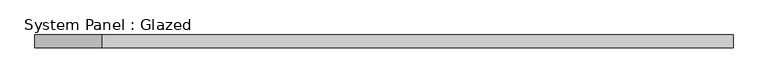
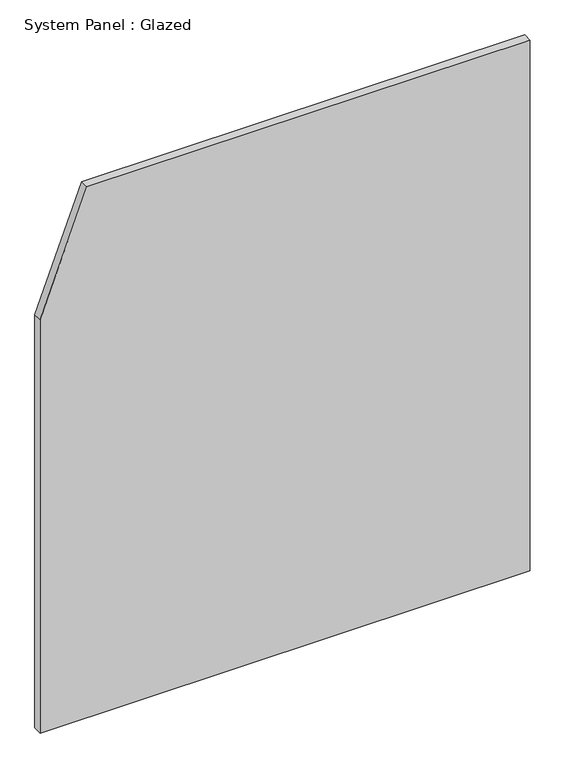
"""IFC4 building model written with IfcOpenShell, lengths in millimetres: plate geometry, System Panel : Glazed."""

from ifc_helpers import new_model, si_unit, point, frame, frame_2d, origin, place, context, project, spatial, polyline, circle_curve, trimmed, segment, composite_curve, outline, extrude, source, transform, mapped, element, save


def system_panel_glazed_2f07938e(model_context):
    return source(origin(), model_context, "Body", "SweptSolid", [
        extrude(outline(composite_curve([segment(polyline([(0.0, -679.1666667), (0.0, 679.1666667), (1553.9731009, 679.1666667), (1553.9731009, -549.4501067)]), True, "CONTINUOUS"), segment(trimmed(circle_curve(frame_2d((444.8347701, 1868.3822726)), 2660.0942185), [point((1553.9731009, -549.4501067))], [point((1210.4036132, -679.1666667))], False, "CARTESIAN"), True, "CONTINUOUS"), segment(polyline([(1210.4036132, -679.1666667), (0.0, -679.1666667)]), True, "CONTINUOUS")], self_intersect=False)), frame((0.0, 24.5, 0.0), z_axis=(0.0, 1.0, 0.0), x_axis=(0.0, 0.0, 1.0)), (0.0, 0.0, 1.0), 25.0),
    ])


if __name__ == "__main__":
    model = new_model("IFC4")
    model_context = context("Model", 3, world=origin())
    ifc_project = project(units=[si_unit("LENGTHUNIT", "METRE", prefix="MILLI")], contexts=[model_context])
    site = spatial("IfcSite", under=ifc_project)
    building = spatial("IfcBuilding", under=site)
    placement = place(None, origin())
    system_panel_glazed_shape = system_panel_glazed_2f07938e(model_context)
    element("IfcPlate", 1, ObjectType="System Panel : Glazed", at=placement, inside=building, context=model_context, shape_type="MappedRepresentation", body=[
        mapped(system_panel_glazed_shape, transform((0.0, 0.0, 0.0), x_axis=(1.0, 0.0, 0.0), y_axis=(0.0, 1.0, 0.0), z_axis=(0.0, 0.0, 1.0))),
    ])
    save(model, "model.ifc")
